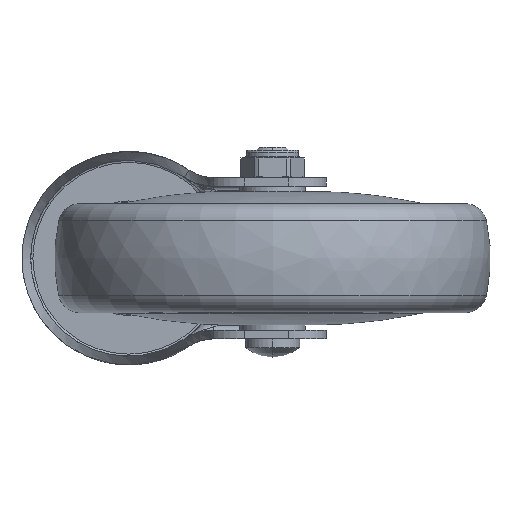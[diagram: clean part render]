
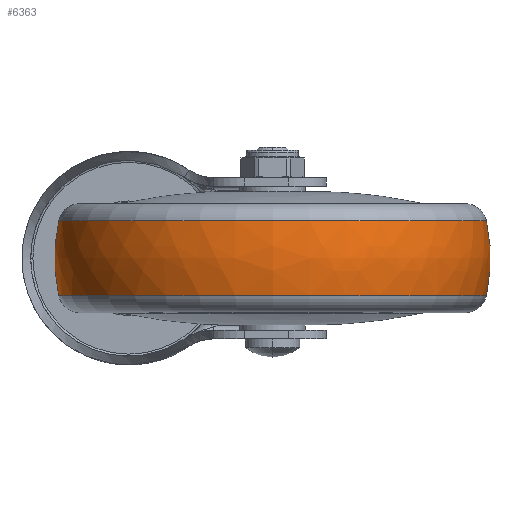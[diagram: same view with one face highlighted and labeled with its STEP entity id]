
A CAD part, front view. The second image highlights one B-rep face of the part: STEP entity #6363.
In plain terms, the highlighted free-form (B-spline) face has degree [3, 3] with [7, 4] control points.
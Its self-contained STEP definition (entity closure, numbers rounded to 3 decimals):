
#4577=CARTESIAN_POINT('',(-59.886,21.377,0.));
#4578=DIRECTION('',(-1.,0.,0.));
#4579=DIRECTION('',(0.,1.,0.));
#4580=AXIS2_PLACEMENT_3D('',#4577,#4578,#4579);
#4582=CARTESIAN_POINT('',(-68.457,31.377,0.));
#4583=DIRECTION('',(0.,0.,1.));
#4584=DIRECTION('',(0.214,0.977,0.));
#4585=AXIS2_PLACEMENT_3D('',#4582,#4583,#4584);
#4592=CARTESIAN_POINT('',(-68.457,11.377,0.));
#4593=DIRECTION('',(0.,0.,-1.));
#4594=DIRECTION('',(0.214,-0.977,0.));
#4595=AXIS2_PLACEMENT_3D('',#4592,#4593,#4594);
#4612=CARTESIAN_POINT('',(-77.029,21.377,0.));
#4613=DIRECTION('',(-1.,0.,0.));
#4614=DIRECTION('',(0.,1.,0.));
#4615=AXIS2_PLACEMENT_3D('',#4612,#4613,#4614);
#6247=CARTESIAN_POINT('',(-59.886,70.448,0.));
#6248=CARTESIAN_POINT('',(-77.029,70.448,0.));
#6249=VERTEX_POINT('',#6247);
#6250=VERTEX_POINT('',#6248);
#6255=CARTESIAN_POINT('',(-59.886,-27.694,
0.));
#6256=CARTESIAN_POINT('',(-77.029,-27.694,
0.));
#6257=VERTEX_POINT('',#6255);
#6258=VERTEX_POINT('',#6256);
#6325=CARTESIAN_POINT('',(-59.548,70.276,3.076));
#6326=CARTESIAN_POINT('',(-65.437,71.618,3.161));
#6327=CARTESIAN_POINT('',(-71.477,71.618,3.161));
#6328=CARTESIAN_POINT('',(-77.366,70.276,3.076));
#6329=CARTESIAN_POINT('',(-59.548,72.169,
-27.016));
#6330=CARTESIAN_POINT('',(-65.437,73.563,
-27.757));
#6331=CARTESIAN_POINT('',(-71.477,73.563,
-27.757));
#6332=CARTESIAN_POINT('',(-77.366,72.169,
-27.016));
#6333=CARTESIAN_POINT('',(-59.548,51.529,
-48.995));
#6334=CARTESIAN_POINT('',(-65.437,52.356,
-50.341));
#6335=CARTESIAN_POINT('',(-71.477,52.356,
-50.341));
#6336=CARTESIAN_POINT('',(-77.366,51.529,
-48.995));
#6337=CARTESIAN_POINT('',(-59.548,21.377,
-48.995));
#6338=CARTESIAN_POINT('',(-65.437,21.377,
-50.341));
#6339=CARTESIAN_POINT('',(-71.477,21.377,
-50.341));
#6340=CARTESIAN_POINT('',(-77.366,21.377,
-48.995));
#6341=CARTESIAN_POINT('',(-59.548,-8.775,
-48.995));
#6342=CARTESIAN_POINT('',(-65.437,-9.603,
-50.341));
#6343=CARTESIAN_POINT('',(-71.477,-9.603,
-50.341));
#6344=CARTESIAN_POINT('',(-77.366,-8.775,
-48.995));
#6345=CARTESIAN_POINT('',(-59.548,-29.415,
-27.016));
#6346=CARTESIAN_POINT('',(-65.437,-30.81,
-27.757));
#6347=CARTESIAN_POINT('',(-71.477,-30.81,
-27.757));
#6348=CARTESIAN_POINT('',(-77.366,-29.415,
-27.016));
#6349=CARTESIAN_POINT('',(-59.548,-27.522,
3.076));
#6350=CARTESIAN_POINT('',(-65.437,-28.864,
3.161));
#6351=CARTESIAN_POINT('',(-71.477,-28.864,
3.161));
#6352=CARTESIAN_POINT('',(-77.366,-27.522,
3.076));
#6353=(BOUNDED_SURFACE()B_SPLINE_SURFACE(3,3,((#6325,#6326,#6327,#6328),(#6329,
#6330,#6331,#6332),(#6333,#6334,#6335,#6336),(#6337,#6338,#6339,#6340),(#6341,
#6342,#6343,#6344),(#6345,#6346,#6347,#6348),(#6349,#6350,#6351,#6352)),
.UNSPECIFIED.,.F.,.F.,.F.)B_SPLINE_SURFACE_WITH_KNOTS((4,3,4),(4,4),(0.,1.,
2.),(0.,1.),.UNSPECIFIED.)GEOMETRIC_REPRESENTATION_ITEM()RATIONAL_B_SPLINE_SURFACE(((1.202,1.182,1.182,1.202),(
0.95,0.934,0.934,0.95),(
0.95,0.934,0.934,0.95),(
1.202,1.182,1.182,1.202),(
0.95,0.934,0.934,0.95),(
0.95,0.934,0.934,0.95),(
1.202,1.182,1.182,1.202)))REPRESENTATION_ITEM('')SURFACE());
#6355=ORIENTED_EDGE('',*,*,#6354,.T.);
#6357=ORIENTED_EDGE('',*,*,#6356,.T.);
#6359=ORIENTED_EDGE('',*,*,#6358,.F.);
#6360=ORIENTED_EDGE('',*,*,#6318,.F.);
#6361=EDGE_LOOP('',(#6355,#6357,#6359,#6360));
#6362=FACE_OUTER_BOUND('',#6361,.F.);
#4581=CIRCLE('',#4580,49.071);
#4586=CIRCLE('',#4585,40.);
#4596=CIRCLE('',#4595,40.);
#4616=CIRCLE('',#4615,49.071);
#6318=EDGE_CURVE('',#6249,#6257,#4581,.T.);
#6354=EDGE_CURVE('',#6249,#6250,#4586,.T.);
#6356=EDGE_CURVE('',#6250,#6258,#4616,.T.);
#6358=EDGE_CURVE('',#6257,#6258,#4596,.T.);
#6363=ADVANCED_FACE('',(#6362),#6353,.T.);
